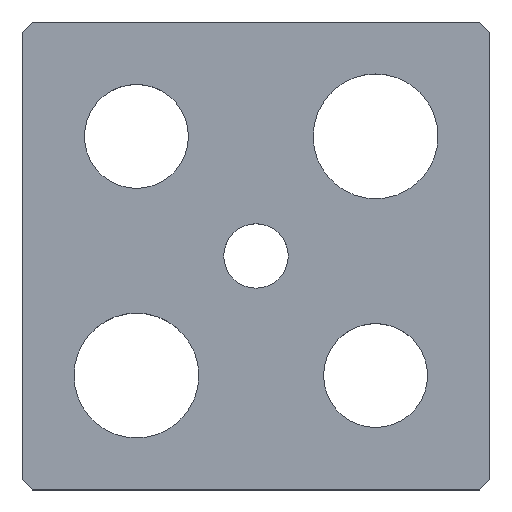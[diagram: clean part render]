
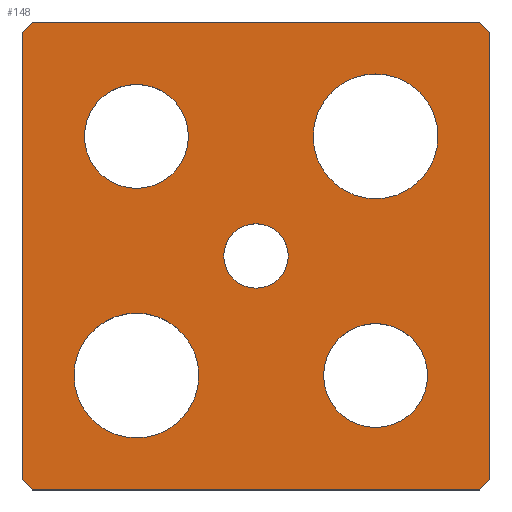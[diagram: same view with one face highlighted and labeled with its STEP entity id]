
A CAD part, top view. The second image highlights one B-rep face of the part: STEP entity #148.
In plain terms, the highlighted planar face has unit normal (0, 0, 1).
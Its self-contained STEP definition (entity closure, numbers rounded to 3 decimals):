
#117=CIRCLE('',#503,3.1);
#118=CIRCLE('',#504,3.1);
#119=CIRCLE('',#505,5.);
#120=CIRCLE('',#506,5.);
#121=CIRCLE('',#507,6.);
#122=CIRCLE('',#508,6.);
#123=CIRCLE('',#509,6.);
#124=CIRCLE('',#510,6.);
#125=CIRCLE('',#511,5.);
#126=CIRCLE('',#512,5.);
#133=FACE_BOUND('',#201,.T.);
#134=FACE_BOUND('',#202,.T.);
#135=FACE_BOUND('',#203,.T.);
#136=FACE_BOUND('',#204,.T.);
#137=FACE_BOUND('',#205,.T.);
#138=FACE_BOUND('',#206,.T.);
#148=ADVANCED_FACE('',(#133,#134,#135,#136,#137,#138),#168,.T.);
#168=PLANE('',#513);
#201=EDGE_LOOP('',(#267,#268,#269,#270,#271,#272,#273,#274));
#202=EDGE_LOOP('',(#275,#276));
#203=EDGE_LOOP('',(#277,#278));
#204=EDGE_LOOP('',(#279,#280));
#205=EDGE_LOOP('',(#281,#282));
#206=EDGE_LOOP('',(#283,#284));
#267=ORIENTED_EDGE('',*,*,#362,.T.);
#268=ORIENTED_EDGE('',*,*,#366,.T.);
#269=ORIENTED_EDGE('',*,*,#369,.T.);
#270=ORIENTED_EDGE('',*,*,#372,.T.);
#271=ORIENTED_EDGE('',*,*,#375,.T.);
#272=ORIENTED_EDGE('',*,*,#378,.T.);
#273=ORIENTED_EDGE('',*,*,#381,.T.);
#274=ORIENTED_EDGE('',*,*,#384,.T.);
#275=ORIENTED_EDGE('',*,*,#395,.T.);
#276=ORIENTED_EDGE('',*,*,#396,.T.);
#277=ORIENTED_EDGE('',*,*,#397,.T.);
#278=ORIENTED_EDGE('',*,*,#398,.T.);
#279=ORIENTED_EDGE('',*,*,#399,.T.);
#280=ORIENTED_EDGE('',*,*,#400,.T.);
#281=ORIENTED_EDGE('',*,*,#401,.T.);
#282=ORIENTED_EDGE('',*,*,#402,.T.);
#283=ORIENTED_EDGE('',*,*,#403,.T.);
#284=ORIENTED_EDGE('',*,*,#404,.T.);
#326=VERTEX_POINT('',#643);
#327=VERTEX_POINT('',#645);
#330=VERTEX_POINT('',#652);
#332=VERTEX_POINT('',#658);
#334=VERTEX_POINT('',#664);
#336=VERTEX_POINT('',#670);
#338=VERTEX_POINT('',#676);
#340=VERTEX_POINT('',#682);
#351=VERTEX_POINT('',#711);
#352=VERTEX_POINT('',#712);
#353=VERTEX_POINT('',#715);
#354=VERTEX_POINT('',#716);
#355=VERTEX_POINT('',#719);
#356=VERTEX_POINT('',#720);
#357=VERTEX_POINT('',#723);
#358=VERTEX_POINT('',#724);
#359=VERTEX_POINT('',#727);
#360=VERTEX_POINT('',#728);
#362=EDGE_CURVE('',#327,#326,#416,.T.);
#366=EDGE_CURVE('',#326,#330,#420,.T.);
#369=EDGE_CURVE('',#330,#332,#423,.T.);
#372=EDGE_CURVE('',#332,#334,#426,.T.);
#375=EDGE_CURVE('',#334,#336,#429,.T.);
#378=EDGE_CURVE('',#336,#338,#432,.T.);
#381=EDGE_CURVE('',#338,#340,#435,.T.);
#384=EDGE_CURVE('',#340,#327,#438,.T.);
#395=EDGE_CURVE('',#351,#352,#117,.T.);
#396=EDGE_CURVE('',#352,#351,#118,.T.);
#397=EDGE_CURVE('',#353,#354,#119,.T.);
#398=EDGE_CURVE('',#354,#353,#120,.T.);
#399=EDGE_CURVE('',#355,#356,#121,.T.);
#400=EDGE_CURVE('',#356,#355,#122,.T.);
#401=EDGE_CURVE('',#357,#358,#123,.T.);
#402=EDGE_CURVE('',#358,#357,#124,.T.);
#403=EDGE_CURVE('',#359,#360,#125,.T.);
#404=EDGE_CURVE('',#360,#359,#126,.T.);
#416=LINE('',#644,#450);
#420=LINE('',#653,#454);
#423=LINE('',#659,#457);
#426=LINE('',#665,#460);
#429=LINE('',#671,#463);
#432=LINE('',#677,#466);
#435=LINE('',#683,#469);
#438=LINE('',#687,#472);
#450=VECTOR('',#527,1.);
#454=VECTOR('',#533,1.);
#457=VECTOR('',#538,1.);
#460=VECTOR('',#543,1.);
#463=VECTOR('',#548,1.);
#466=VECTOR('',#553,1.);
#469=VECTOR('',#558,1.);
#472=VECTOR('',#563,1.);
#503=AXIS2_PLACEMENT_3D('',#710,#588,#589);
#504=AXIS2_PLACEMENT_3D('',#713,#590,#591);
#505=AXIS2_PLACEMENT_3D('',#714,#592,#593);
#506=AXIS2_PLACEMENT_3D('',#717,#594,#595);
#507=AXIS2_PLACEMENT_3D('',#718,#596,#597);
#508=AXIS2_PLACEMENT_3D('',#721,#598,#599);
#509=AXIS2_PLACEMENT_3D('',#722,#600,#601);
#510=AXIS2_PLACEMENT_3D('',#725,#602,#603);
#511=AXIS2_PLACEMENT_3D('',#726,#604,#605);
#512=AXIS2_PLACEMENT_3D('',#729,#606,#607);
#513=AXIS2_PLACEMENT_3D('',#730,#608,#609);
#527=DIRECTION('',(0.707,-0.707,0.));
#533=DIRECTION('',(1.,0.,0.));
#538=DIRECTION('',(0.707,0.707,0.));
#543=DIRECTION('',(0.,1.,0.));
#548=DIRECTION('',(-0.707,0.707,0.));
#553=DIRECTION('',(-1.,0.,0.));
#558=DIRECTION('',(-0.707,-0.707,0.));
#563=DIRECTION('',(0.,-1.,0.));
#588=DIRECTION('',(0.,0.,-1.));
#589=DIRECTION('',(-1.,0.,0.));
#590=DIRECTION('',(0.,0.,-1.));
#591=DIRECTION('',(1.,0.,0.));
#592=DIRECTION('',(0.,0.,-1.));
#593=DIRECTION('',(-1.,0.,0.));
#594=DIRECTION('',(0.,0.,-1.));
#595=DIRECTION('',(1.,0.,0.));
#596=DIRECTION('',(0.,0.,-1.));
#597=DIRECTION('',(-1.,0.,0.));
#598=DIRECTION('',(0.,0.,-1.));
#599=DIRECTION('',(1.,0.,0.));
#600=DIRECTION('',(0.,0.,-1.));
#601=DIRECTION('',(-1.,0.,0.));
#602=DIRECTION('',(0.,0.,-1.));
#603=DIRECTION('',(1.,0.,0.));
#604=DIRECTION('',(0.,0.,-1.));
#605=DIRECTION('',(-1.,0.,0.));
#606=DIRECTION('',(0.,0.,-1.));
#607=DIRECTION('',(1.,0.,0.));
#608=DIRECTION('',(0.,0.,1.));
#609=DIRECTION('',(0.,-1.,0.));
#643=CARTESIAN_POINT('',(-21.5,-22.5,5.));
#644=CARTESIAN_POINT('',(-22.5,-21.5,5.));
#645=CARTESIAN_POINT('',(-22.5,-21.5,5.));
#652=CARTESIAN_POINT('',(21.5,-22.5,5.));
#653=CARTESIAN_POINT('',(-21.5,-22.5,5.));
#658=CARTESIAN_POINT('',(22.5,-21.5,5.));
#659=CARTESIAN_POINT('',(22.5,-21.5,5.));
#664=CARTESIAN_POINT('',(22.5,21.5,5.));
#665=CARTESIAN_POINT('',(22.5,21.5,5.));
#670=CARTESIAN_POINT('',(21.5,22.5,5.));
#671=CARTESIAN_POINT('',(21.5,22.5,5.));
#676=CARTESIAN_POINT('',(-21.5,22.5,5.));
#677=CARTESIAN_POINT('',(-21.5,22.5,5.));
#682=CARTESIAN_POINT('',(-22.5,21.5,5.));
#683=CARTESIAN_POINT('',(-22.5,21.5,5.));
#687=CARTESIAN_POINT('',(-22.5,21.5,5.));
#710=CARTESIAN_POINT('',(0.,0.,5.));
#711=CARTESIAN_POINT('',(0.,3.1,5.));
#712=CARTESIAN_POINT('',(0.,-3.1,5.));
#713=CARTESIAN_POINT('',(0.,0.,5.));
#714=CARTESIAN_POINT('',(-11.5,11.5,5.));
#715=CARTESIAN_POINT('',(-11.5,16.5,5.));
#716=CARTESIAN_POINT('',(-11.5,6.5,5.));
#717=CARTESIAN_POINT('',(-11.5,11.5,5.));
#718=CARTESIAN_POINT('',(11.5,11.5,5.));
#719=CARTESIAN_POINT('',(11.5,17.5,5.));
#720=CARTESIAN_POINT('',(11.5,5.5,5.));
#721=CARTESIAN_POINT('',(11.5,11.5,5.));
#722=CARTESIAN_POINT('',(-11.5,-11.5,5.));
#723=CARTESIAN_POINT('',(-11.5,-5.5,5.));
#724=CARTESIAN_POINT('',(-11.5,-17.5,5.));
#725=CARTESIAN_POINT('',(-11.5,-11.5,5.));
#726=CARTESIAN_POINT('',(11.5,-11.5,5.));
#727=CARTESIAN_POINT('',(11.5,-6.5,5.));
#728=CARTESIAN_POINT('',(11.5,-16.5,5.));
#729=CARTESIAN_POINT('',(11.5,-11.5,5.));
#730=CARTESIAN_POINT('',(-22.5,-21.5,5.));
